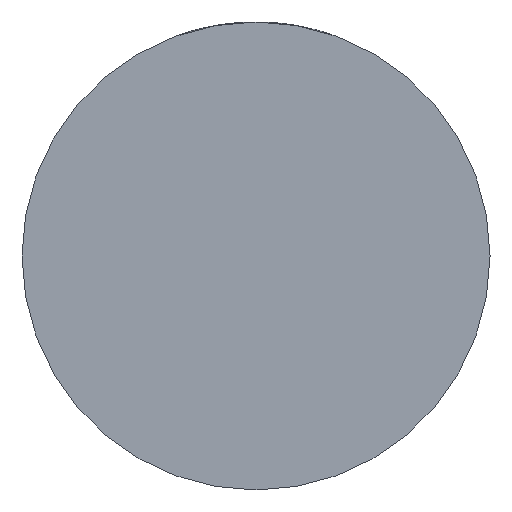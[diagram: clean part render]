
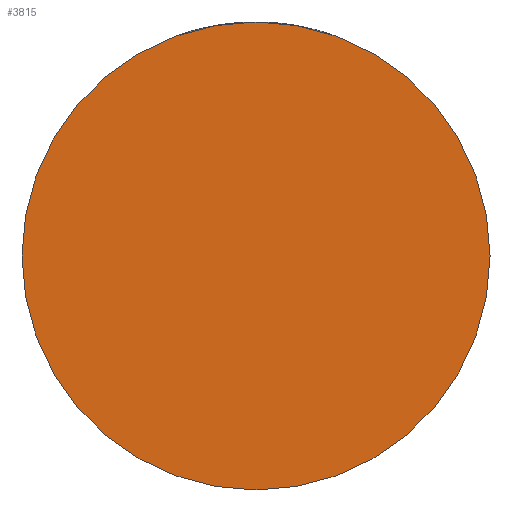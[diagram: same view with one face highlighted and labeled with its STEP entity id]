
A CAD part, front view. The second image highlights one B-rep face of the part: STEP entity #3815.
In plain terms, the highlighted planar face has unit normal (0, -1, 0).
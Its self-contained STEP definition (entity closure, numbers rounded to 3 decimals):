
#203 = CIRCLE ( 'NONE', #918, 26.5 ) ;
#313 = DIRECTION ( 'NONE',  ( 0., -1., 0. ) ) ;
#463 = ORIENTED_EDGE ( 'NONE', *, *, #3851, .T. ) ;
#513 = ORIENTED_EDGE ( 'NONE', *, *, #3381, .T. ) ;
#918 = AXIS2_PLACEMENT_3D ( 'NONE', #1316, #313, #1336 ) ;
#928 = FACE_OUTER_BOUND ( 'NONE', #3987, .T. ) ;
#946 = PLANE ( 'NONE',  #2306 ) ;
#1032 = CARTESIAN_POINT ( 'NONE',  ( 26.5, -22., 0. ) ) ;
#1316 = CARTESIAN_POINT ( 'NONE',  ( 0., -22., 0. ) ) ;
#1336 = DIRECTION ( 'NONE',  ( 1., 0., 0. ) ) ;
#1736 = CARTESIAN_POINT ( 'NONE',  ( 0., -22., 0. ) ) ;
#1762 = DIRECTION ( 'NONE',  ( 1., 0., 0. ) ) ;
#2257 = DIRECTION ( 'NONE',  ( 0., -1., 0. ) ) ;
#2306 = AXIS2_PLACEMENT_3D ( 'NONE', #3311, #2257, #4297 ) ;
#3077 = CARTESIAN_POINT ( 'NONE',  ( -26.5, -22., 0. ) ) ;
#3311 = CARTESIAN_POINT ( 'NONE',  ( 0., -22., 0. ) ) ;
#3381 = EDGE_CURVE ( 'NONE', #3511, #3383, #3646, .T. ) ;
#3383 = VERTEX_POINT ( 'NONE', #3077 ) ;
#3427 = DIRECTION ( 'NONE',  ( 0., -1., 0. ) ) ;
#3511 = VERTEX_POINT ( 'NONE', #1032 ) ;
#3646 = CIRCLE ( 'NONE', #4267, 26.5 ) ;
#3815 = ADVANCED_FACE ( 'NONE', ( #928 ), #946, .T. ) ;
#3851 = EDGE_CURVE ( 'NONE', #3383, #3511, #203, .T. ) ;
#3987 = EDGE_LOOP ( 'NONE', ( #463, #513 ) ) ;
#4267 = AXIS2_PLACEMENT_3D ( 'NONE', #1736, #3427, #1762 ) ;
#4297 = DIRECTION ( 'NONE',  ( 1., 0., 0. ) ) ;
